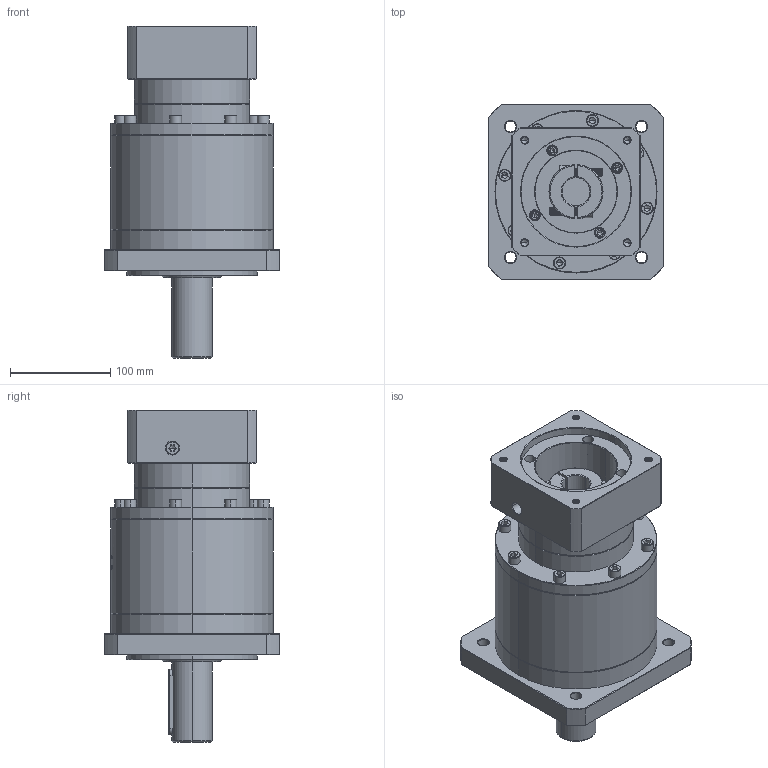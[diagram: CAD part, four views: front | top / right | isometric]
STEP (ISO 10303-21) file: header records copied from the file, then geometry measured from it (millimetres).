
FILE_DESCRIPTION (( 'STEP AP214' ), '1' );
FILE_NAME ('ZF160-D40-L3-28-110-145-M8.step', '2023-03-22T03:58:17', ( '' ), ( '' ), 'SwSTEP 2.0', 'SolidWorks 2016', '' );
FILE_SCHEMA (( 'AUTOMOTIVE_DESIGN' ));
Length unit declared in the file: millimetre
Products named in the file (1): ZF160-D40-L3-28-110-145-M8
Bounding box: 175 x 175 x 331.7 mm (x, y, z)
Volume: 4405429.1 mm3; surface area: 295444.3 mm2
Topology: 6 solids, 6 shells, 1852 faces, 4653 edges, 2926 vertices
Faces by surface type: plane 745, cylinder 482, cone 355, bspline 212, torus 58
Entity records: 98575 total; most frequent: CARTESIAN_POINT 36181, ORIENTED_EDGE 9198, DIRECTION 8072, EDGE_CURVE 4599, VERTEX_POINT 2926, AXIS2_PLACEMENT_3D 2790, VECTOR 2492, LINE 2492
